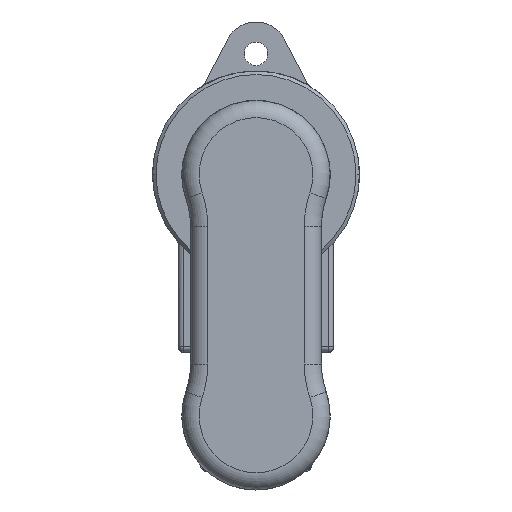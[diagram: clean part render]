
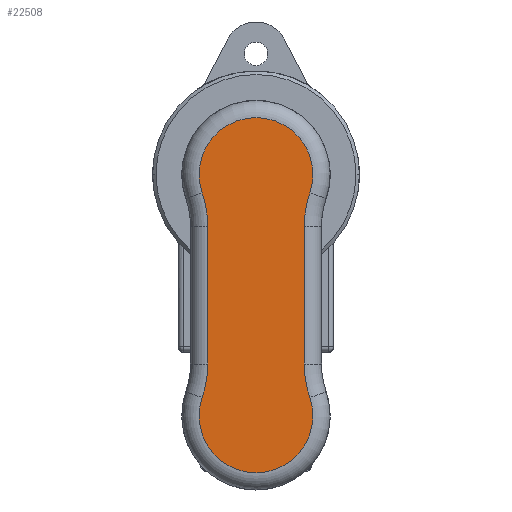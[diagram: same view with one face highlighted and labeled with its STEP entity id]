
A CAD part, left-side view. The second image highlights one B-rep face of the part: STEP entity #22508.
In plain terms, the highlighted planar face has unit normal (-1, 0, 0).
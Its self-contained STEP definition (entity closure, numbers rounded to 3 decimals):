
#4799=CARTESIAN_POINT('',(-70.,0.,-70.));
#4800=DIRECTION('',(1.,0.,0.));
#4801=DIRECTION('',(0.,-0.946,0.323));
#4802=AXIS2_PLACEMENT_3D('',#4799,#4800,#4801);
#4804=CARTESIAN_POINT('',(-70.,44.,-54.958));
#4805=DIRECTION('',(-1.,0.,0.));
#4806=DIRECTION('',(0.,-0.946,-0.323));
#4807=AXIS2_PLACEMENT_3D('',#4804,#4805,#4806);
#4809=DIRECTION('',(0.,0.,1.));
#4810=VECTOR('',#4809,39.917);
#4811=CARTESIAN_POINT('',(-70.,14.,-54.958));
#4812=LINE('',#4811,#4810);
#4813=CARTESIAN_POINT('',(-70.,44.,-15.042));
#4814=DIRECTION('',(-1.,0.,0.));
#4815=DIRECTION('',(0.,-1.,0.));
#4816=AXIS2_PLACEMENT_3D('',#4813,#4814,#4815);
#4818=CARTESIAN_POINT('',(-70.,0.,0.));
#4819=DIRECTION('',(1.,0.,0.));
#4820=DIRECTION('',(0.,0.946,-0.323));
#4821=AXIS2_PLACEMENT_3D('',#4818,#4819,#4820);
#4823=CARTESIAN_POINT('',(-70.,-44.,-15.042));
#4824=DIRECTION('',(-1.,0.,0.));
#4825=DIRECTION('',(0.,0.946,0.323));
#4826=AXIS2_PLACEMENT_3D('',#4823,#4824,#4825);
#4828=DIRECTION('',(0.,0.,-1.));
#4829=VECTOR('',#4828,39.917);
#4830=CARTESIAN_POINT('',(-70.,-14.,-15.042));
#4831=LINE('',#4830,#4829);
#4832=CARTESIAN_POINT('',(-70.,-44.,-54.958));
#4833=DIRECTION('',(-1.,0.,0.));
#4834=DIRECTION('',(0.,1.,0.));
#4835=AXIS2_PLACEMENT_3D('',#4832,#4833,#4834);
#18128=CARTESIAN_POINT('',(-70.,-15.613,-64.663));
#18129=CARTESIAN_POINT('',(-70.,15.613,-64.663));
#18130=VERTEX_POINT('',#18128);
#18131=VERTEX_POINT('',#18129);
#18134=CARTESIAN_POINT('',(-70.,14.,-54.958));
#18135=VERTEX_POINT('',#18134);
#18138=CARTESIAN_POINT('',(-70.,14.,-15.042));
#18139=VERTEX_POINT('',#18138);
#18142=CARTESIAN_POINT('',(-70.,15.613,-5.337));
#18143=VERTEX_POINT('',#18142);
#18146=CARTESIAN_POINT('',(-70.,-15.613,-5.337));
#18147=VERTEX_POINT('',#18146);
#18150=CARTESIAN_POINT('',(-70.,-14.,-15.042));
#18151=VERTEX_POINT('',#18150);
#18154=CARTESIAN_POINT('',(-70.,-14.,-54.958));
#18155=VERTEX_POINT('',#18154);
#22491=CARTESIAN_POINT('',(-70.,0.,0.));
#22492=DIRECTION('',(1.,0.,0.));
#22493=DIRECTION('',(0.,0.,-1.));
#22494=AXIS2_PLACEMENT_3D('',#22491,#22492,#22493);
#22495=PLANE('',#22494);
#22496=ORIENTED_EDGE('',*,*,#20861,.T.);
#22497=ORIENTED_EDGE('',*,*,#20876,.T.);
#22499=ORIENTED_EDGE('',*,*,#22498,.T.);
#22501=ORIENTED_EDGE('',*,*,#22500,.T.);
#22502=ORIENTED_EDGE('',*,*,#22484,.T.);
#22503=ORIENTED_EDGE('',*,*,#20818,.T.);
#22504=ORIENTED_EDGE('',*,*,#20833,.T.);
#22505=ORIENTED_EDGE('',*,*,#20847,.T.);
#22506=EDGE_LOOP('',(#22496,#22497,#22499,#22501,#22502,#22503,#22504,#22505));
#22507=FACE_OUTER_BOUND('',#22506,.F.);
#22508=ADVANCED_FACE('',(#22507),#22495,.F.);
#4803=CIRCLE('',#4802,16.5);
#4808=CIRCLE('',#4807,30.);
#4817=CIRCLE('',#4816,30.);
#4822=CIRCLE('',#4821,16.5);
#4827=CIRCLE('',#4826,30.);
#4836=CIRCLE('',#4835,30.);
#20818=EDGE_CURVE('',#18147,#18151,#4827,.T.);
#20833=EDGE_CURVE('',#18151,#18155,#4831,.T.);
#20847=EDGE_CURVE('',#18155,#18130,#4836,.T.);
#20861=EDGE_CURVE('',#18130,#18131,#4803,.T.);
#20876=EDGE_CURVE('',#18131,#18135,#4808,.T.);
#22484=EDGE_CURVE('',#18143,#18147,#4822,.T.);
#22498=EDGE_CURVE('',#18135,#18139,#4812,.T.);
#22500=EDGE_CURVE('',#18139,#18143,#4817,.T.);
